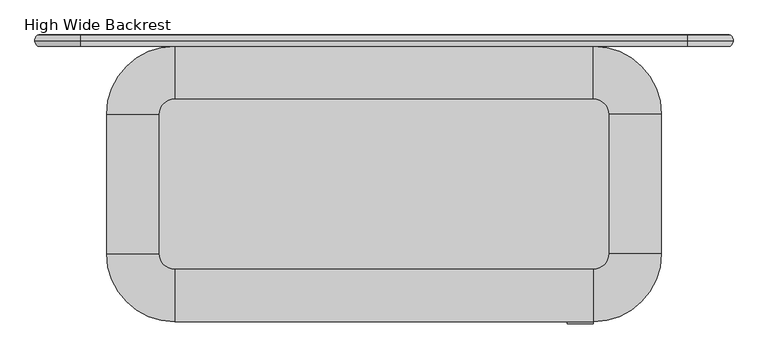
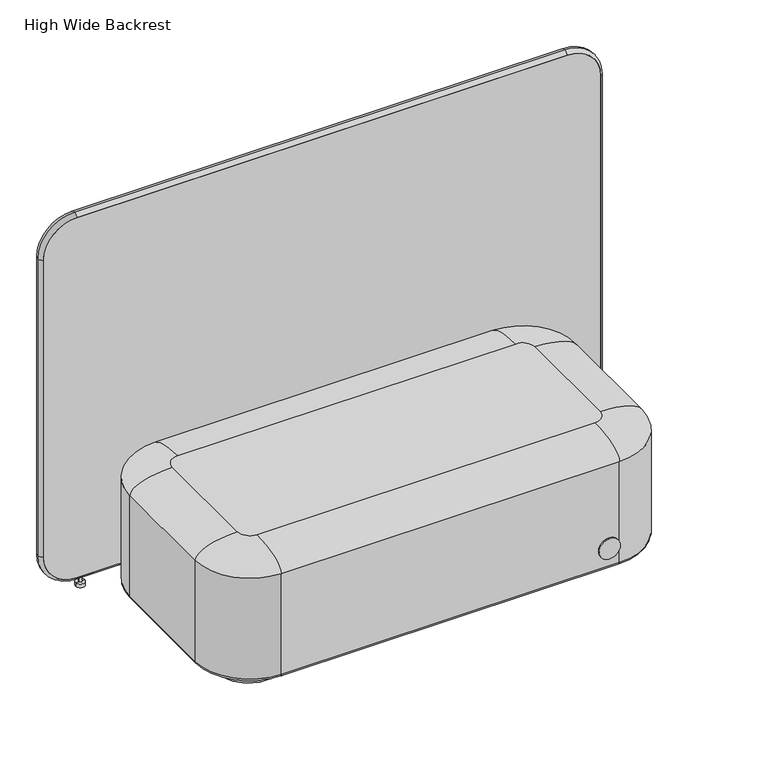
"""IFC4 building model written with IfcOpenShell, lengths in millimetres: furniture geometry, PODLounge  : High Wide Backrest."""

from ifc_helpers import new_model, si_unit, point, frame, frame_2d, origin, origin_with_axes, place, context, project, spatial, polyline, circle_curve, ellipse_curve, trimmed, segment, composite_curve, outline, extrude, source, transform, mapped, element, save
from ifc_brep_helpers import plane_surface, cylinder_surface, revolved_surface, extruded_surface, advanced_brep


def high_wide_backrest_39f6402d(model_context):
    return source(origin(), model_context, "Body", "SolidModel", [
        advanced_brep(
        [(-769.9999916, 380.0, 12.0), (-800.0000084, 380.0, 12.0), (-790.0, 380.0, 12.0), (-780.0, 380.0, 12.0), (-790.0, 380.0, 37.4784241), (-780.0, 380.0, 37.4784241), (-785.0, 380.0, 37.4784241), (-785.0, 380.0, 0.0), (-800.0000084, 380.0, 0.0), (-769.9999916, 380.0, 0.0)],
        [
            (0, 1, circle_curve(frame((-785.0, 380.0, 12.0), z_axis=(0.0, 0.0, 1.0), x_axis=(-1.0, 0.0, 0.0)), 15.0000084)),
            (1, 2),
            (2, 3, circle_curve(frame((-785.0, 380.0, 12.0), z_axis=(0.0, 0.0, -1.0), x_axis=(-1.0, 0.0, 0.0)), 5.0)),
            (3, 0),
            (1, 0, circle_curve(frame((-785.0, 380.0, 12.0), z_axis=(0.0, 0.0, 1.0), x_axis=(-1.0, 0.0, 0.0)), 15.0000084)),
            (3, 2, circle_curve(frame((-785.0, 380.0, 12.0), z_axis=(0.0, 0.0, -1.0), x_axis=(-1.0, 0.0, 0.0)), 5.0)),
            (2, 4),
            (4, 5, circle_curve(frame((-785.0, 380.0, 37.4784241), z_axis=(0.0, 0.0, -1.0), x_axis=(-1.0, 0.0, 0.0)), 5.0)),
            (5, 3),
            (5, 4, circle_curve(frame((-785.0, 380.0, 37.4784241), z_axis=(0.0, 0.0, -1.0), x_axis=(-1.0, 0.0, 0.0)), 5.0)),
            (4, 6),
            (6, 5),
            (7, 8),
            (8, 9, circle_curve(frame((-785.0, 380.0, 0.0), z_axis=(0.0, 0.0, -1.0), x_axis=(-1.0, 0.0, 0.0)), 15.0000084)),
            (9, 7),
            (9, 8, circle_curve(frame((-785.0, 380.0, 0.0), z_axis=(0.0, 0.0, -1.0), x_axis=(-1.0, 0.0, 0.0)), 15.0000084)),
            (8, 1),
            (0, 9),
        ],
        [
            plane_surface(frame((-785.0, 380.0, 12.0), z_axis=(0.0, 0.0, 1.0), x_axis=(-1.0, 0.0, 0.0))),
            cylinder_surface(frame((-785.0, 380.0, 37.4784241), z_axis=(0.0, 0.0, -1.0), x_axis=(-1.0, 0.0, 0.0)), 5.0),
            plane_surface(frame((-785.0, 380.0, 37.4784241), z_axis=(0.0, 0.0, 1.0), x_axis=(-1.0, 0.0, 0.0))),
            plane_surface(frame((-785.0, 380.0, 0.0), z_axis=(0.0, 0.0, -1.0), x_axis=(-1.0, 0.0, 0.0))),
            cylinder_surface(frame((-785.0, 380.0, 37.4784241), z_axis=(0.0, 0.0, -1.0), x_axis=(-1.0, 0.0, 0.0)), 15.0000084),
        ],
        [
            (0, [[1, 2, 3, 4]]),
            (0, [[5, -4, 6, -2]]),
            (1, [[-3, 7, 8, 9]]),
            (1, [[-6, -9, 10, -7]]),
            (2, [[-8, 11, 12]]),
            (2, [[-10, -12, -11]]),
            (3, [[13, 14, 15]]),
            (3, [[-15, 16, -13]]),
            (4, [[-14, 17, -1, 18]]),
            (4, [[-16, -18, -5, -17]]),
        ],
    ),
        advanced_brep(
        [(769.9999916, 380.0, 12.0), (780.0, 380.0, 12.0), (790.0, 380.0, 12.0), (800.0000084, 380.0, 12.0), (780.0, 380.0, 37.4784241), (790.0, 380.0, 37.4784241), (785.0, 380.0, 37.4784241), (785.0, 380.0, 0.0), (769.9999916, 380.0, 0.0), (800.0000084, 380.0, 0.0)],
        [
            (0, 1),
            (1, 2, circle_curve(frame((785.0, 380.0, 12.0), z_axis=(0.0, 0.0, -1.0), x_axis=(1.0, 0.0, 0.0)), 5.0)),
            (2, 3),
            (3, 0, circle_curve(frame((785.0, 380.0, 12.0), z_axis=(0.0, 0.0, 1.0), x_axis=(1.0, 0.0, 0.0)), 15.0000084)),
            (2, 1, circle_curve(frame((785.0, 380.0, 12.0), z_axis=(0.0, 0.0, -1.0), x_axis=(1.0, 0.0, 0.0)), 5.0)),
            (0, 3, circle_curve(frame((785.0, 380.0, 12.0), z_axis=(0.0, 0.0, 1.0), x_axis=(1.0, 0.0, 0.0)), 15.0000084)),
            (1, 4),
            (4, 5, circle_curve(frame((785.0, 380.0, 37.4784241), z_axis=(0.0, 0.0, -1.0), x_axis=(1.0, 0.0, 0.0)), 5.0)),
            (5, 2),
            (5, 4, circle_curve(frame((785.0, 380.0, 37.4784241), z_axis=(0.0, 0.0, -1.0), x_axis=(1.0, 0.0, 0.0)), 5.0)),
            (4, 6),
            (6, 5),
            (7, 8),
            (8, 9, circle_curve(frame((785.0, 380.0, 0.0), z_axis=(0.0, 0.0, -1.0), x_axis=(1.0, 0.0, 0.0)), 15.0000084)),
            (9, 7),
            (9, 8, circle_curve(frame((785.0, 380.0, 0.0), z_axis=(0.0, 0.0, -1.0), x_axis=(1.0, 0.0, 0.0)), 15.0000084)),
            (8, 0),
            (3, 9),
        ],
        [
            plane_surface(frame((785.0, 380.0, 12.0), z_axis=(0.0, 0.0, 1.0), x_axis=(1.0, 0.0, 0.0))),
            cylinder_surface(frame((785.0, 380.0, 37.4784241), z_axis=(0.0, 0.0, -1.0), x_axis=(1.0, 0.0, 0.0)), 5.0),
            plane_surface(frame((785.0, 380.0, 37.4784241), z_axis=(0.0, 0.0, 1.0), x_axis=(1.0, 0.0, 0.0))),
            plane_surface(frame((785.0, 380.0, 0.0), z_axis=(0.0, 0.0, -1.0), x_axis=(1.0, 0.0, 0.0))),
            cylinder_surface(frame((785.0, 380.0, 37.4784241), z_axis=(0.0, 0.0, -1.0), x_axis=(1.0, 0.0, 0.0)), 15.0000084),
        ],
        [
            (0, [[1, 2, 3, 4]]),
            (0, [[-3, 5, -1, 6]]),
            (1, [[7, 8, 9, -2]]),
            (1, [[-9, 10, -7, -5]]),
            (2, [[11, 12, -8]]),
            (2, [[-12, -11, -10]]),
            (3, [[13, 14, 15]]),
            (3, [[-15, 16, -13]]),
            (4, [[17, -4, 18, -14]]),
            (4, [[-18, -6, -17, -16]]),
        ],
    ),
        advanced_brep(
        [(915.0, 395.0, 1180.0), (915.0, 365.0, 1180.0), (805.0, 365.0, 1290.0), (805.0, 395.0, 1290.0), (915.0, 395.0, 150.0), (915.0, 365.0, 150.0), (805.0, 395.0, 40.0), (805.0, 365.0, 40.0), (-805.0, 395.0, 40.0), (-805.0, 365.0, 40.0), (-915.0, 395.0, 150.0), (-915.0, 365.0, 150.0), (-915.0, 395.0, 1180.0), (-915.0, 365.0, 1180.0), (-805.0, 395.0, 1290.0), (-805.0, 365.0, 1290.0), (924.9992342, 379.8143612, 1180.0), (805.0, 379.8143612, 1299.9992342), (924.9992342, 379.8143612, 150.0), (805.0, 379.8143612, 30.0007658), (-805.0, 379.8143612, 30.0007658), (-924.9992342, 379.8143612, 150.0), (-924.9992342, 379.8143612, 1180.0), (-805.0, 379.8143612, 1299.9992342)],
        [
            (0, 1),
            (1, 2, circle_curve(frame((805.0, 365.0, 1180.0), z_axis=(0.0, -1.0, 0.0), x_axis=(0.0, 0.0, 1.0)), 110.0)),
            (2, 3),
            (3, 0, circle_curve(frame((805.0, 395.0, 1180.0), z_axis=(0.0, 1.0, 0.0), x_axis=(0.0, 0.0, 1.0)), 110.0)),
            (0, 4),
            (4, 5),
            (5, 1),
            (6, 7),
            (7, 5, circle_curve(frame((805.0, 365.0, 150.0), z_axis=(0.0, -1.0, 0.0), x_axis=(1.0, 0.0, 0.0)), 110.0)),
            (4, 6, circle_curve(frame((805.0, 395.0, 150.0), z_axis=(0.0, 1.0, 0.0), x_axis=(1.0, 0.0, 0.0)), 110.0)),
            (6, 8),
            (8, 9),
            (9, 7),
            (10, 11),
            (11, 9, circle_curve(frame((-805.0, 365.0, 150.0), z_axis=(0.0, -1.0, 0.0), x_axis=(0.0, 0.0, -1.0)), 110.0)),
            (8, 10, circle_curve(frame((-805.0, 395.0, 150.0), z_axis=(0.0, 1.0, 0.0), x_axis=(0.0, 0.0, -1.0)), 110.0)),
            (10, 12),
            (12, 13),
            (13, 11),
            (14, 15),
            (15, 13, circle_curve(frame((-805.0, 365.0, 1180.0), z_axis=(0.0, -1.0, 0.0), x_axis=(-1.0, 0.0, 0.0)), 110.0)),
            (12, 14, circle_curve(frame((-805.0, 395.0, 1180.0), z_axis=(0.0, 1.0, 0.0), x_axis=(-1.0, 0.0, 0.0)), 110.0)),
            (14, 3),
            (2, 15),
            (16, 0, ellipse_curve(frame((915.0, 380.0, 1180.0), z_axis=(0.0, 0.0, 1.0), x_axis=(0.0, 1.0, 0.0)), 15.0, 10.0)),
            (3, 17, ellipse_curve(frame((805.0, 380.0, 1290.0), z_axis=(1.0, 0.0, 0.0), x_axis=(0.0, 1.0, 0.0)), 15.0, 10.0)),
            (17, 16, circle_curve(frame((805.0, 379.8143612, 1180.0), z_axis=(0.0, 1.0, 0.0), x_axis=(0.0, 0.0, 1.0)), 119.9992342)),
            (1, 16, ellipse_curve(frame((915.0, 380.0, 1180.0), z_axis=(0.0, 0.0, 1.0), x_axis=(0.0, 1.0, 0.0)), 15.0, 10.0)),
            (17, 2, ellipse_curve(frame((805.0, 380.0, 1290.0), z_axis=(1.0, 0.0, 0.0), x_axis=(0.0, 1.0, 0.0)), 15.0, 10.0)),
            (16, 18),
            (18, 4, ellipse_curve(frame((915.0, 380.0, 150.0), z_axis=(0.0, 0.0, 1.0), x_axis=(0.0, 1.0, 0.0)), 15.0, 10.0)),
            (5, 18, ellipse_curve(frame((915.0, 380.0, 150.0), z_axis=(0.0, 0.0, 1.0), x_axis=(0.0, 1.0, 0.0)), 15.0, 10.0)),
            (19, 6, ellipse_curve(frame((805.0, 380.0, 40.0), z_axis=(1.0, 0.0, 0.0), x_axis=(0.0, 1.0, 0.0)), 15.0, 10.0)),
            (18, 19, circle_curve(frame((805.0, 379.8143612, 150.0), z_axis=(0.0, 1.0, 0.0), x_axis=(1.0, 0.0, 0.0)), 119.9992342)),
            (7, 19, ellipse_curve(frame((805.0, 380.0, 40.0), z_axis=(1.0, 0.0, 0.0), x_axis=(0.0, 1.0, 0.0)), 15.0, 10.0)),
            (19, 20),
            (20, 8, ellipse_curve(frame((-805.0, 380.0, 40.0), z_axis=(1.0, 0.0, 0.0), x_axis=(0.0, 1.0, 0.0)), 15.0, 10.0)),
            (9, 20, ellipse_curve(frame((-805.0, 380.0, 40.0), z_axis=(1.0, 0.0, 0.0), x_axis=(0.0, 1.0, 0.0)), 15.0, 10.0)),
            (21, 10, ellipse_curve(frame((-915.0, 380.0, 150.0), z_axis=(0.0, 0.0, -1.0), x_axis=(0.0, 1.0, 0.0)), 15.0, 10.0)),
            (20, 21, circle_curve(frame((-805.0, 379.8143612, 150.0), z_axis=(0.0, 1.0, 0.0), x_axis=(0.0, 0.0, -1.0)), 119.9992342)),
            (11, 21, ellipse_curve(frame((-915.0, 380.0, 150.0), z_axis=(0.0, 0.0, -1.0), x_axis=(0.0, 1.0, 0.0)), 15.0, 10.0)),
            (21, 22),
            (22, 12, ellipse_curve(frame((-915.0, 380.0, 1180.0), z_axis=(0.0, 0.0, -1.0), x_axis=(0.0, 1.0, 0.0)), 15.0, 10.0)),
            (13, 22, ellipse_curve(frame((-915.0, 380.0, 1180.0), z_axis=(0.0, 0.0, -1.0), x_axis=(0.0, 1.0, 0.0)), 15.0, 10.0)),
            (23, 14, ellipse_curve(frame((-805.0, 380.0, 1290.0), z_axis=(-1.0, 0.0, 0.0), x_axis=(0.0, 1.0, 0.0)), 15.0, 10.0)),
            (22, 23, circle_curve(frame((-805.0, 379.8143612, 1180.0), z_axis=(0.0, 1.0, 0.0), x_axis=(-1.0, 0.0, 0.0)), 119.9992342)),
            (15, 23, ellipse_curve(frame((-805.0, 380.0, 1290.0), z_axis=(-1.0, 0.0, 0.0), x_axis=(0.0, 1.0, 0.0)), 15.0, 10.0)),
            (23, 17),
        ],
        [
            revolved_surface(polyline([(805.0, 365.0, 1290.0), (805.0, 395.0, 1290.0)]), (805.0, 395.0, 1180.0), (0.0, -1.0, 0.0)),
            plane_surface(frame((915.0, 365.0, 1180.0), z_axis=(-1.0, 0.0, 0.0), x_axis=(0.0, 0.0, -1.0))),
            revolved_surface(polyline([(915.0, 365.0, 150.0), (915.0, 395.0, 150.0)]), (805.0, 395.0, 150.0), (0.0, -1.0, 0.0)),
            plane_surface(frame((805.0, 365.0, 40.0), z_axis=(0.0, 0.0, 1.0), x_axis=(-1.0, 0.0, 0.0))),
            revolved_surface(polyline([(-805.0, 365.0, 40.0), (-805.0, 395.0, 40.0)]), (-805.0, 395.0, 150.0), (0.0, -1.0, 0.0)),
            plane_surface(frame((-915.0, 365.0, 150.0), z_axis=(1.0, 0.0, 0.0), x_axis=(0.0, 0.0, 1.0))),
            revolved_surface(polyline([(-915.0, 365.0, 1180.0), (-915.0, 395.0, 1180.0)]), (-805.0, 395.0, 1180.0), (0.0, -1.0, 0.0)),
            plane_surface(frame((-805.0, 365.0, 1290.0), z_axis=(0.0, 0.0, -1.0), x_axis=(1.0, 0.0, 0.0))),
            revolved_surface(trimmed(ellipse_curve(frame((805.0, 380.0, 1290.0), z_axis=(1.0, 0.0, 0.0), x_axis=(0.0, 1.0, 0.0)), 15.0, 10.0), [point((805.0, 395.0, 1290.0))], [point((805.0, 379.8143612, 1299.9992342))], True, "CARTESIAN"), (805.0, 395.0, 1180.0), (0.0, -1.0, 0.0)),
            revolved_surface(trimmed(ellipse_curve(frame((805.0, 380.0, 1290.0), z_axis=(1.0, 0.0, 0.0), x_axis=(0.0, 1.0, 0.0)), 15.0, 10.0), [point((805.0, 379.8143612, 1299.9992342))], [point((805.0, 365.0, 1290.0))], True, "CARTESIAN"), (805.0, 395.0, 1180.0), (0.0, -1.0, 0.0)),
            extruded_surface(trimmed(ellipse_curve(frame((915.0, 380.0, 1180.0), z_axis=(0.0, 0.0, -1.0), x_axis=(0.0, 1.0, 0.0)), 15.0, 10.0), [point((915.0, 395.0, 1180.0))], [point((924.9992342, 379.8143612, 1180.0))], True, "CARTESIAN"), (0.0, 0.0, -1030.0), 1030.0),
            extruded_surface(trimmed(ellipse_curve(frame((915.0, 380.0, 1180.0), z_axis=(0.0, 0.0, -1.0), x_axis=(0.0, 1.0, 0.0)), 15.0, 10.0), [point((924.9992342, 379.8143612, 1180.0))], [point((915.0, 365.0, 1180.0))], True, "CARTESIAN"), (0.0, 0.0, -1030.0), 1030.0),
            revolved_surface(trimmed(ellipse_curve(frame((915.0, 380.0, 150.0), z_axis=(0.0, 0.0, -1.0), x_axis=(0.0, 1.0, 0.0)), 15.0, 10.0), [point((915.0, 395.0, 150.0))], [point((924.9992342, 379.8143612, 150.0))], True, "CARTESIAN"), (805.0, 395.0, 150.0), (0.0, -1.0, 0.0)),
            revolved_surface(trimmed(ellipse_curve(frame((915.0, 380.0, 150.0), z_axis=(0.0, 0.0, -1.0), x_axis=(0.0, 1.0, 0.0)), 15.0, 10.0), [point((924.9992342, 379.8143612, 150.0))], [point((915.0, 365.0, 150.0))], True, "CARTESIAN"), (805.0, 395.0, 150.0), (0.0, -1.0, 0.0)),
            extruded_surface(trimmed(ellipse_curve(frame((805.0, 380.0, 40.0), z_axis=(-1.0, 0.0, 0.0), x_axis=(0.0, 1.0, 0.0)), 15.0, 10.0), [point((805.0, 395.0, 40.0))], [point((805.0, 379.8143612, 30.0007658))], True, "CARTESIAN"), (-1610.0, 0.0, 0.0), 1610.0),
            extruded_surface(trimmed(ellipse_curve(frame((805.0, 380.0, 40.0), z_axis=(-1.0, 0.0, 0.0), x_axis=(0.0, 1.0, 0.0)), 15.0, 10.0), [point((805.0, 379.8143612, 30.0007658))], [point((805.0, 365.0, 40.0))], True, "CARTESIAN"), (-1610.0, 0.0, 0.0), 1610.0),
            revolved_surface(trimmed(ellipse_curve(frame((-805.0, 380.0, 40.0), z_axis=(-1.0, 0.0, 0.0), x_axis=(0.0, 1.0, 0.0)), 15.0, 10.0), [point((-805.0, 395.0, 40.0))], [point((-805.0, 379.8143612, 30.0007658))], True, "CARTESIAN"), (-805.0, 395.0, 150.0), (0.0, -1.0, 0.0)),
            revolved_surface(trimmed(ellipse_curve(frame((-805.0, 380.0, 40.0), z_axis=(-1.0, 0.0, 0.0), x_axis=(0.0, 1.0, 0.0)), 15.0, 10.0), [point((-805.0, 379.8143612, 30.0007658))], [point((-805.0, 365.0, 40.0))], True, "CARTESIAN"), (-805.0, 395.0, 150.0), (0.0, -1.0, 0.0)),
            extruded_surface(trimmed(ellipse_curve(frame((-915.0, 380.0, 150.0), z_axis=(0.0, 0.0, 1.0), x_axis=(0.0, 1.0, 0.0)), 15.0, 10.0), [point((-915.0, 395.0, 150.0))], [point((-924.9992342, 379.8143612, 150.0))], True, "CARTESIAN"), (0.0, 0.0, 1030.0), 1030.0),
            extruded_surface(trimmed(ellipse_curve(frame((-915.0, 380.0, 150.0), z_axis=(0.0, 0.0, 1.0), x_axis=(0.0, 1.0, 0.0)), 15.0, 10.0), [point((-924.9992342, 379.8143612, 150.0))], [point((-915.0, 365.0, 150.0))], True, "CARTESIAN"), (0.0, 0.0, 1030.0), 1030.0),
            revolved_surface(trimmed(ellipse_curve(frame((-915.0, 380.0, 1180.0), z_axis=(0.0, 0.0, 1.0), x_axis=(0.0, 1.0, 0.0)), 15.0, 10.0), [point((-915.0, 395.0, 1180.0))], [point((-924.9992342, 379.8143612, 1180.0))], True, "CARTESIAN"), (-805.0, 395.0, 1180.0), (0.0, -1.0, 0.0)),
            revolved_surface(trimmed(ellipse_curve(frame((-915.0, 380.0, 1180.0), z_axis=(0.0, 0.0, 1.0), x_axis=(0.0, 1.0, 0.0)), 15.0, 10.0), [point((-924.9992342, 379.8143612, 1180.0))], [point((-915.0, 365.0, 1180.0))], True, "CARTESIAN"), (-805.0, 395.0, 1180.0), (0.0, -1.0, 0.0)),
            extruded_surface(trimmed(ellipse_curve(frame((-805.0, 380.0, 1290.0), z_axis=(1.0, 0.0, 0.0), x_axis=(0.0, 1.0, 0.0)), 15.0, 10.0), [point((-805.0, 395.0, 1290.0))], [point((-805.0, 379.8143612, 1299.9992342))], True, "CARTESIAN"), (1610.0, 0.0, 0.0), 1610.0),
            extruded_surface(trimmed(ellipse_curve(frame((-805.0, 380.0, 1290.0), z_axis=(1.0, 0.0, 0.0), x_axis=(0.0, 1.0, 0.0)), 15.0, 10.0), [point((-805.0, 379.8143612, 1299.9992342))], [point((-805.0, 365.0, 1290.0))], True, "CARTESIAN"), (1610.0, 0.0, 0.0), 1610.0),
        ],
        [
            (0, [[1, 2, 3, 4]]),
            (1, [[5, 6, 7, -1]]),
            (2, [[8, 9, -6, 10]]),
            (3, [[11, 12, 13, -8]]),
            (4, [[14, 15, -12, 16]]),
            (5, [[17, 18, 19, -14]]),
            (6, [[20, 21, -18, 22]]),
            (7, [[23, -3, 24, -20]]),
            (8, [[25, -4, 26, 27]]),
            (9, [[28, -27, 29, -2]]),
            (10, [[30, 31, -5, -25]]),
            (11, [[-7, 32, -30, -28]]),
            (12, [[33, -10, -31, 34]]),
            (13, [[35, -34, -32, -9]]),
            (14, [[36, 37, -11, -33]]),
            (15, [[-13, 38, -36, -35]]),
            (16, [[39, -16, -37, 40]]),
            (17, [[41, -40, -38, -15]]),
            (18, [[42, 43, -17, -39]]),
            (19, [[-19, 44, -42, -41]]),
            (20, [[45, -22, -43, 46]]),
            (21, [[47, -46, -44, -21]]),
            (22, [[48, -26, -23, -45]]),
            (23, [[-24, -29, -48, -47]]),
        ],
    ),
        extrude(outline(composite_curve([segment(polyline([(1290.0, 805.0), (1290.0, -805.0)]), True, "CONTINUOUS"), segment(trimmed(circle_curve(frame_2d((1180.0, -805.0)), 110.0), [point((1290.0, -805.0))], [point((1180.0, -915.0))], False, "CARTESIAN"), True, "CONTINUOUS"), segment(polyline([(1180.0, -915.0), (150.0, -915.0)]), True, "CONTINUOUS"), segment(trimmed(circle_curve(frame_2d((150.0, -805.0)), 110.0), [point((150.0, -915.0))], [point((40.0, -805.0))], False, "CARTESIAN"), True, "CONTINUOUS"), segment(polyline([(40.0, -805.0), (40.0, 805.0)]), True, "CONTINUOUS"), segment(trimmed(circle_curve(frame_2d((150.0, 805.0)), 110.0), [point((40.0, 805.0))], [point((150.0, 915.0))], False, "CARTESIAN"), True, "CONTINUOUS"), segment(polyline([(150.0, 915.0), (1180.0, 915.0)]), True, "CONTINUOUS"), segment(trimmed(circle_curve(frame_2d((1180.0, 805.0)), 110.0), [point((1180.0, 915.0))], [point((1290.0, 805.0))], False, "CARTESIAN"), True, "CONTINUOUS")], self_intersect=False)), frame((0.0, 365.0, 0.0), z_axis=(0.0, 1.0, 0.0), x_axis=(0.0, 0.0, 1.0)), (0.0, 0.0, 1.0), 30.0),
        advanced_brep(
        [(-555.0, 225.0, 460.0), (-595.0, 185.0, 460.0), (-595.0, -185.0, 460.0), (-555.0, -225.0, 460.0), (555.0, -225.0, 460.0), (595.0, -185.0, 460.0), (595.0, 185.0, 460.0), (555.0, 225.0, 460.0), (-725.0, 185.0, 50.0), (-555.0, 355.0, 50.0), (555.0, 355.0, 50.0), (725.0, 185.0, 50.0), (725.0, -185.0, 50.0), (555.0, -355.0, 50.0), (-555.0, -355.0, 50.0), (-725.0, -185.0, 50.0), (555.0, -365.0, 410.0), (555.0, -365.0, 60.0), (735.0, -185.0, 60.0), (735.0, -185.0, 410.0), (735.0, 185.0, 60.0), (735.0, 185.0, 410.0), (555.0, 365.0, 60.0), (555.0, 365.0, 410.0), (-555.0, 365.0, 60.0), (-555.0, 365.0, 410.0), (-735.0, 185.0, 410.0), (-735.0, 185.0, 60.0), (-735.0, -185.0, 60.0), (-735.0, -185.0, 410.0), (-555.0, -365.0, 410.0), (-555.0, -365.0, 60.0)],
        [
            (0, 1, circle_curve(frame((-555.0, 185.0, 460.0), z_axis=(0.0, 0.0, 1.0), x_axis=(0.0, 1.0, 0.0)), 40.0)),
            (1, 2),
            (2, 3, circle_curve(frame((-555.0, -185.0, 460.0), z_axis=(0.0, 0.0, 1.0), x_axis=(-1.0, 0.0, 0.0)), 40.0)),
            (3, 4),
            (4, 5, circle_curve(frame((555.0, -185.0, 460.0), z_axis=(0.0, 0.0, 1.0), x_axis=(0.0, -1.0, 0.0)), 40.0)),
            (5, 6),
            (6, 7, circle_curve(frame((555.0, 185.0, 460.0), z_axis=(0.0, 0.0, 1.0), x_axis=(1.0, 0.0, 0.0)), 40.0)),
            (7, 0),
            (8, 9, circle_curve(frame((-555.0, 185.0, 50.0), z_axis=(0.0, 0.0, -1.0), x_axis=(0.0, 1.0, 0.0)), 170.0)),
            (9, 10),
            (10, 11, circle_curve(frame((555.0, 185.0, 50.0), z_axis=(0.0, 0.0, -1.0), x_axis=(1.0, 0.0, 0.0)), 170.0)),
            (11, 12),
            (12, 13, circle_curve(frame((555.0, -185.0, 50.0), z_axis=(0.0, 0.0, -1.0), x_axis=(0.0, -1.0, 0.0)), 170.0)),
            (13, 14),
            (14, 15, circle_curve(frame((-555.0, -185.0, 50.0), z_axis=(0.0, 0.0, -1.0), x_axis=(-1.0, 0.0, 0.0)), 170.0)),
            (15, 8),
            (16, 17),
            (17, 18, circle_curve(frame((555.0, -185.0, 60.0), z_axis=(0.0, 0.0, 1.0), x_axis=(1.0, 0.0, 0.0)), 180.0)),
            (18, 19),
            (19, 16, circle_curve(frame((555.0, -185.0, 410.0), z_axis=(0.0, 0.0, -1.0), x_axis=(1.0, 0.0, 0.0)), 180.0)),
            (18, 20),
            (20, 21),
            (21, 19),
            (20, 22, circle_curve(frame((555.0, 185.0, 60.0), z_axis=(0.0, 0.0, 1.0), x_axis=(1.0, 0.0, 0.0)), 180.0)),
            (22, 23),
            (23, 21, circle_curve(frame((555.0, 185.0, 410.0), z_axis=(0.0, 0.0, -1.0), x_axis=(1.0, 0.0, 0.0)), 180.0)),
            (22, 24),
            (24, 25),
            (25, 23),
            (26, 27),
            (27, 28),
            (28, 29),
            (29, 26),
            (16, 30),
            (30, 31),
            (31, 17),
            (26, 25, circle_curve(frame((-555.0, 185.0, 410.0), z_axis=(0.0, 0.0, -1.0), x_axis=(1.0, 0.0, 0.0)), 180.0)),
            (24, 27, circle_curve(frame((-555.0, 185.0, 60.0), z_axis=(0.0, 0.0, 1.0), x_axis=(1.0, 0.0, 0.0)), 180.0)),
            (30, 29, circle_curve(frame((-555.0, -185.0, 410.0), z_axis=(0.0, 0.0, -1.0), x_axis=(1.0, 0.0, 0.0)), 180.0)),
            (28, 31, circle_curve(frame((-555.0, -185.0, 60.0), z_axis=(0.0, 0.0, 1.0), x_axis=(1.0, 0.0, 0.0)), 180.0)),
            (26, 1, ellipse_curve(frame((-595.0, 185.0, 410.0), z_axis=(0.0, 1.0, 0.0), x_axis=(-1.0, 0.0, 0.0)), 140.0, 50.0)),
            (0, 25, ellipse_curve(frame((-555.0, 225.0, 410.0), z_axis=(-1.0, 0.0, 0.0), x_axis=(0.0, 1.0, 0.0)), 140.0, 50.0)),
            (29, 2, ellipse_curve(frame((-595.0, -185.0, 410.0), z_axis=(0.0, 1.0, 0.0), x_axis=(-1.0, 0.0, 0.0)), 140.0, 50.0)),
            (30, 3, ellipse_curve(frame((-555.0, -225.0, 410.0), z_axis=(-1.0, 0.0, 0.0), x_axis=(0.0, -1.0, 0.0)), 140.0, 50.0)),
            (16, 4, ellipse_curve(frame((555.0, -225.0, 410.0), z_axis=(-1.0, 0.0, 0.0), x_axis=(0.0, -1.0, 0.0)), 140.0, 50.0)),
            (19, 5, ellipse_curve(frame((595.0, -185.0, 410.0), z_axis=(0.0, -1.0, 0.0), x_axis=(1.0, 0.0, 0.0)), 140.0, 50.0)),
            (21, 6, ellipse_curve(frame((595.0, 185.0, 410.0), z_axis=(0.0, -1.0, 0.0), x_axis=(1.0, 0.0, 0.0)), 140.0, 50.0)),
            (23, 7, ellipse_curve(frame((555.0, 225.0, 410.0), z_axis=(1.0, 0.0, 0.0), x_axis=(0.0, 1.0, 0.0)), 140.0, 50.0)),
            (8, 27, circle_curve(frame((-725.0, 185.0, 60.0), z_axis=(0.0, 1.0, 0.0), x_axis=(1.0, 0.0, 0.0)), 10.0)),
            (24, 9, circle_curve(frame((-555.0, 355.0, 60.0), z_axis=(-1.0, 0.0, 0.0), x_axis=(0.0, -1.0, 0.0)), 10.0)),
            (15, 28, circle_curve(frame((-725.0, -185.0, 60.0), z_axis=(0.0, 1.0, 0.0), x_axis=(1.0, 0.0, 0.0)), 10.0)),
            (14, 31, circle_curve(frame((-555.0, -355.0, 60.0), z_axis=(-1.0, 0.0, 0.0), x_axis=(0.0, 1.0, 0.0)), 10.0)),
            (13, 17, circle_curve(frame((555.0, -355.0, 60.0), z_axis=(-1.0, 0.0, 0.0), x_axis=(0.0, 1.0, 0.0)), 10.0)),
            (12, 18, circle_curve(frame((725.0, -185.0, 60.0), z_axis=(0.0, -1.0, 0.0), x_axis=(-1.0, 0.0, 0.0)), 10.0)),
            (11, 20, circle_curve(frame((725.0, 185.0, 60.0), z_axis=(0.0, -1.0, 0.0), x_axis=(-1.0, 0.0, 0.0)), 10.0)),
            (10, 22, circle_curve(frame((555.0, 355.0, 60.0), z_axis=(1.0, 0.0, 0.0), x_axis=(0.0, -1.0, 0.0)), 10.0)),
        ],
        [
            plane_surface(frame((735.0, -185.0, 460.0), z_axis=(0.0, 0.0, 1.0), x_axis=(0.0, 1.0, 0.0))),
            plane_surface(frame((735.0, -185.0, 50.0), z_axis=(0.0, 0.0, -1.0), x_axis=(0.0, -1.0, 0.0))),
            cylinder_surface(frame((555.0, -185.0, 50.0), z_axis=(0.0, 0.0, 1.0), x_axis=(1.0, 0.0, 0.0)), 180.0),
            plane_surface(frame((735.0, -185.0, 460.0), z_axis=(1.0, 0.0, 0.0), x_axis=(0.0, 0.0, -1.0))),
            cylinder_surface(frame((555.0, 185.0, 50.0), z_axis=(0.0, 0.0, 1.0), x_axis=(1.0, 0.0, 0.0)), 180.0),
            plane_surface(frame((555.0, 365.0, 460.0), z_axis=(0.0, 1.0, 0.0), x_axis=(0.0, 0.0, -1.0))),
            plane_surface(frame((-735.0, 185.0, 460.0), z_axis=(-1.0, 0.0, 0.0), x_axis=(0.0, 0.0, -1.0))),
            plane_surface(frame((-555.0, -365.0, 460.0), z_axis=(0.0, -1.0, 0.0), x_axis=(0.0, 0.0, -1.0))),
            cylinder_surface(frame((-555.0, 185.0, 50.0), z_axis=(0.0, 0.0, 1.0), x_axis=(1.0, 0.0, 0.0)), 180.0),
            cylinder_surface(frame((-555.0, -185.0, 50.0), z_axis=(0.0, 0.0, 1.0), x_axis=(1.0, 0.0, 0.0)), 180.0),
            revolved_surface(trimmed(ellipse_curve(frame((-555.0, 225.0, 410.0), z_axis=(1.0, 0.0, 0.0), x_axis=(0.0, 1.0, 0.0)), 140.0, 50.0), [point((-555.0, 365.0, 410.0))], [point((-555.0, 225.0, 460.0))], True, "CARTESIAN"), (-555.0, 185.0, 0.0), (0.0, 0.0, 1.0)),
            extruded_surface(trimmed(ellipse_curve(frame((-595.0, 185.0, 410.0), z_axis=(0.0, -1.0, 0.0), x_axis=(-1.0, 0.0, 0.0)), 140.0, 50.0), [point((-595.0, 185.0, 460.0))], [point((-735.0, 185.0, 410.0))], True, "CARTESIAN"), (0.0, -370.0, 0.0), 370.0),
            revolved_surface(trimmed(ellipse_curve(frame((-595.0, -185.0, 410.0), z_axis=(0.0, 1.0, 0.0), x_axis=(-1.0, 0.0, 0.0)), 140.0, 50.0), [point((-735.0, -185.0, 410.0))], [point((-595.0, -185.0, 460.0))], True, "CARTESIAN"), (-555.0, -185.0, 0.0), (0.0, 0.0, 1.0)),
            extruded_surface(trimmed(ellipse_curve(frame((-555.0, -225.0, 410.0), z_axis=(1.0, 0.0, 0.0), x_axis=(0.0, -1.0, 0.0)), 140.0, 50.0), [point((-555.0, -225.0, 460.0))], [point((-555.0, -365.0, 410.0))], True, "CARTESIAN"), (1110.0, 0.0, 0.0), 1110.0),
            revolved_surface(trimmed(ellipse_curve(frame((555.0, -225.0, 410.0), z_axis=(-1.0, 0.0, 0.0), x_axis=(0.0, -1.0, 0.0)), 140.0, 50.0), [point((555.0, -365.0, 410.0))], [point((555.0, -225.0, 460.0))], True, "CARTESIAN"), (555.0, -185.0, 0.0), (0.0, 0.0, 1.0)),
            extruded_surface(trimmed(ellipse_curve(frame((595.0, -185.0, 410.0), z_axis=(0.0, 1.0, 0.0), x_axis=(1.0, 0.0, 0.0)), 140.0, 50.0), [point((595.0, -185.0, 460.0))], [point((735.0, -185.0, 410.0))], True, "CARTESIAN"), (0.0, 370.0, 0.0), 370.0),
            revolved_surface(trimmed(ellipse_curve(frame((595.0, 185.0, 410.0), z_axis=(0.0, -1.0, 0.0), x_axis=(1.0, 0.0, 0.0)), 140.0, 50.0), [point((735.0, 185.0, 410.0))], [point((595.0, 185.0, 460.0))], True, "CARTESIAN"), (555.0, 185.0, 0.0), (0.0, 0.0, 1.0)),
            extruded_surface(trimmed(ellipse_curve(frame((555.0, 225.0, 410.0), z_axis=(-1.0, 0.0, 0.0), x_axis=(0.0, 1.0, 0.0)), 140.0, 50.0), [point((555.0, 225.0, 460.0))], [point((555.0, 365.0, 410.0))], True, "CARTESIAN"), (-1110.0, 0.0, 0.0), 1110.0),
            revolved_surface(trimmed(ellipse_curve(frame((-555.0, 355.0, 60.0), z_axis=(1.0, 0.0, 0.0), x_axis=(0.0, -1.0, 0.0)), 10.0, 10.0), [point((-555.0, 355.0, 50.0))], [point((-555.0, 365.0, 60.0))], True, "CARTESIAN"), (-555.0, 185.0, 0.0), (0.0, 0.0, 1.0)),
            cylinder_surface(frame((-725.0, 185.0, 60.0), z_axis=(0.0, -1.0, 0.0), x_axis=(1.0, 0.0, 0.0)), 10.0),
            revolved_surface(trimmed(ellipse_curve(frame((-725.0, -185.0, 60.0), z_axis=(0.0, 1.0, 0.0), x_axis=(1.0, 0.0, 0.0)), 10.0, 10.0), [point((-725.0, -185.0, 50.0))], [point((-735.0, -185.0, 60.0))], True, "CARTESIAN"), (-555.0, -185.0, 0.0), (0.0, 0.0, 1.0)),
            cylinder_surface(frame((-555.0, -355.0, 60.0), z_axis=(1.0, 0.0, 0.0), x_axis=(0.0, 1.0, 0.0)), 10.0),
            revolved_surface(trimmed(ellipse_curve(frame((555.0, -355.0, 60.0), z_axis=(-1.0, 0.0, 0.0), x_axis=(0.0, 1.0, 0.0)), 10.0, 10.0), [point((555.0, -355.0, 50.0))], [point((555.0, -365.0, 60.0))], True, "CARTESIAN"), (555.0, -185.0, 0.0), (0.0, 0.0, 1.0)),
            cylinder_surface(frame((725.0, -185.0, 60.0), z_axis=(0.0, 1.0, 0.0), x_axis=(-1.0, 0.0, 0.0)), 10.0),
            revolved_surface(trimmed(ellipse_curve(frame((725.0, 185.0, 60.0), z_axis=(0.0, -1.0, 0.0), x_axis=(-1.0, 0.0, 0.0)), 10.0, 10.0), [point((725.0, 185.0, 50.0))], [point((735.0, 185.0, 60.0))], True, "CARTESIAN"), (555.0, 185.0, 0.0), (0.0, 0.0, 1.0)),
            cylinder_surface(frame((555.0, 355.0, 60.0), z_axis=(-1.0, 0.0, 0.0), x_axis=(0.0, -1.0, 0.0)), 10.0),
        ],
        [
            (0, [[1, 2, 3, 4, 5, 6, 7, 8]]),
            (1, [[9, 10, 11, 12, 13, 14, 15, 16]]),
            (2, [[17, 18, 19, 20]]),
            (3, [[-19, 21, 22, 23]]),
            (4, [[-22, 24, 25, 26]]),
            (5, [[-25, 27, 28, 29]]),
            (6, [[30, 31, 32, 33]]),
            (7, [[-17, 34, 35, 36]]),
            (8, [[-30, 37, -28, 38]]),
            (9, [[-35, 39, -32, 40]]),
            (10, [[41, -1, 42, -37]]),
            (11, [[-41, -33, 43, -2]]),
            (12, [[-43, -39, 44, -3]]),
            (13, [[-44, -34, 45, -4]]),
            (14, [[-45, -20, 46, -5]]),
            (15, [[-46, -23, 47, -6]]),
            (16, [[-47, -26, 48, -7]]),
            (17, [[-42, -8, -48, -29]]),
            (18, [[49, -38, 50, -9]]),
            (19, [[-49, -16, 51, -31]]),
            (20, [[-51, -15, 52, -40]]),
            (21, [[-52, -14, 53, -36]]),
            (22, [[-53, -13, 54, -18]]),
            (23, [[-54, -12, 55, -21]]),
            (24, [[-55, -11, 56, -24]]),
            (25, [[-50, -27, -56, -10]]),
        ],
    ),
        extrude(outline(composite_curve([segment(polyline([(565.0, -295.0), (-565.0, -295.0)]), True, "CONTINUOUS"), segment(trimmed(circle_curve(frame_2d((-565.0, -195.0)), 100.0), [point((-565.0, -295.0))], [point((-665.0, -195.0))], False, "CARTESIAN"), True, "CONTINUOUS"), segment(polyline([(-665.0, -195.0), (-665.0, 195.0)]), True, "CONTINUOUS"), segment(trimmed(circle_curve(frame_2d((-565.0, 195.0)), 100.0), [point((-665.0, 195.0))], [point((-565.0, 295.0))], False, "CARTESIAN"), True, "CONTINUOUS"), segment(polyline([(-565.0, 295.0), (565.0, 295.0)]), True, "CONTINUOUS"), segment(trimmed(circle_curve(frame_2d((565.0, 195.0)), 100.0), [point((565.0, 295.0))], [point((665.0, 195.0))], False, "CARTESIAN"), True, "CONTINUOUS"), segment(polyline([(665.0, 195.0), (665.0, -195.0)]), True, "CONTINUOUS"), segment(trimmed(circle_curve(frame_2d((565.0, -195.0)), 100.0), [point((665.0, -195.0))], [point((565.0, -295.0))], False, "CARTESIAN"), True, "CONTINUOUS")], self_intersect=False)), origin_with_axes(), (0.0, 0.0, 1.0), 50.0),
        extrude(outline(composite_curve([segment(trimmed(circle_curve(frame_2d((122.8625944, 520.0)), 35.0), [point((122.8625944, 555.0))], [point((122.8625944, 485.0))], False, "CARTESIAN"), True, "CONTINUOUS"), segment(trimmed(circle_curve(frame_2d((122.8625944, 520.0)), 35.0), [point((122.8625944, 485.0))], [point((122.8625944, 555.0))], False, "CARTESIAN"), True, "CONTINUOUS")], self_intersect=False)), frame((0.0, -370.0, 0.0), z_axis=(0.0, 1.0, 0.0), x_axis=(0.0, 0.0, 1.0)), (0.0, 0.0, 1.0), 5.0),
    ])


if __name__ == "__main__":
    model = new_model("IFC4")
    model_context = context("Model", 3, world=origin())
    ifc_project = project(units=[si_unit("LENGTHUNIT", "METRE", prefix="MILLI")], contexts=[model_context])
    site = spatial("IfcSite", under=ifc_project)
    building = spatial("IfcBuilding", under=site)
    placement = place(None, origin())
    high_wide_backrest_shape = high_wide_backrest_39f6402d(model_context)
    element("IfcFurniture", 1, ObjectType="PODLounge  : High Wide Backrest", at=placement, inside=building, context=model_context, shape_type="MappedRepresentation", body=[
        mapped(high_wide_backrest_shape, transform((0.0, 0.0, 0.0), x_axis=(1.0, 0.0, 0.0), y_axis=(0.0, 1.0, 0.0), z_axis=(0.0, 0.0, 1.0))),
    ])
    save(model, "model.ifc")
